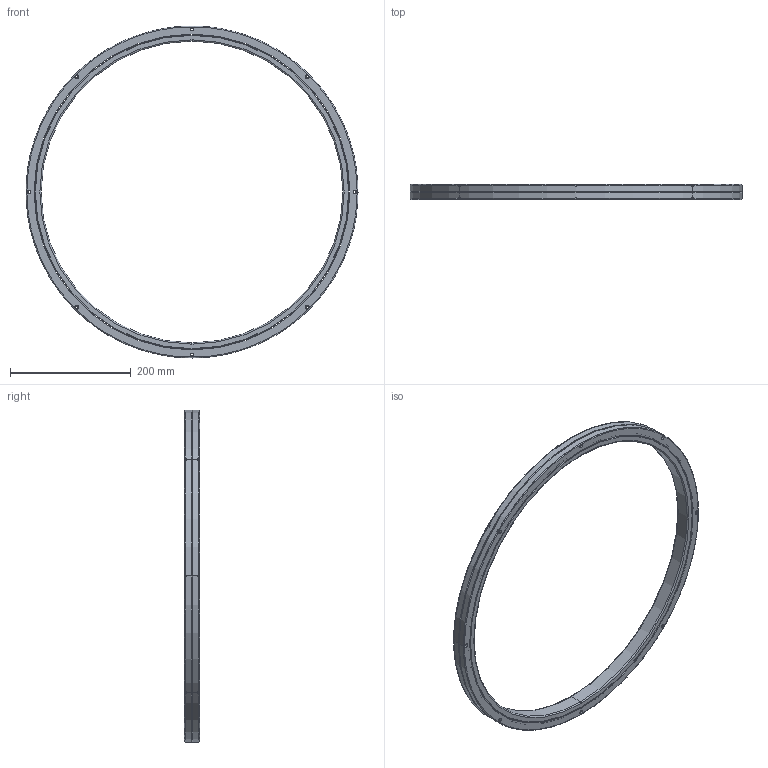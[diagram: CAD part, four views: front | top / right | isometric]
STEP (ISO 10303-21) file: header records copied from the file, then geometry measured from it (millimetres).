
FILE_DESCRIPTION((''),'2;1');
FILE_NAME('RB50025','2014-11-24T',('Administrator'),(''),'PRO/ENGINEER BY PARAMETRIC TECHNOLOGY CORPORATION, 2010180','PRO/ENGINEER BY PARAMETRIC TECHNOLOGY CORPORATION, 2010180','');
FILE_SCHEMA(('AUTOMOTIVE_DESIGN_CC2 { 1 2 10303 214 -1 1 5 2 }'));
Length unit declared in the file: millimetre
Products named in the file (1): RB50025
Bounding box: 550 x 25 x 550 mm (x, y, z)
Volume: 849451.5 mm3; surface area: 276970.4 mm2
Topology: 2 solids, 2 shells, 120 faces, 1606 edges, 1533 vertices
Faces by surface type: cylinder 74, plane 26, cone 12, torus 8
Entity records: 15721 total; most frequent: DIRECTION 2052, CARTESIAN_POINT 1905, VECTOR 1434, LINE 1434, PRESENTATION_STYLE_ASSIGNMENT 1361, STYLED_ITEM 1361, CURVE_STYLE 1351, TRIMMED_CURVE 1350
